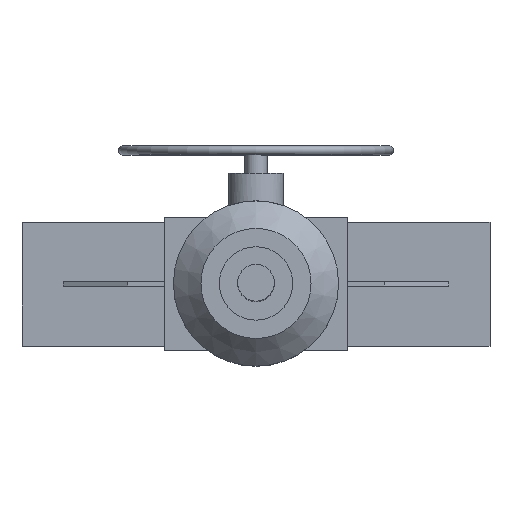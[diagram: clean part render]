
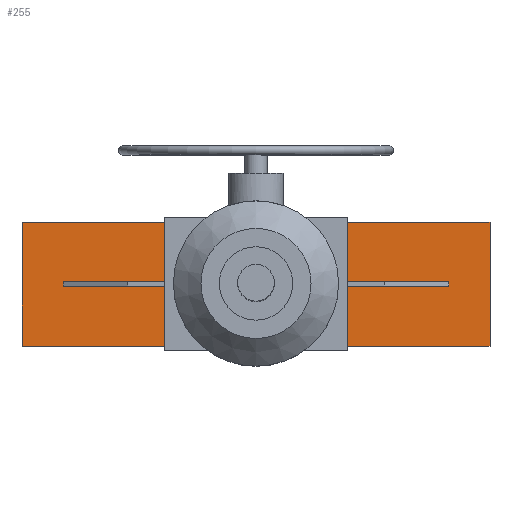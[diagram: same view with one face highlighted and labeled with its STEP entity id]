
A CAD part, top view. The second image highlights one B-rep face of the part: STEP entity #255.
In plain terms, the highlighted planar face has unit normal (0, 0, 1).
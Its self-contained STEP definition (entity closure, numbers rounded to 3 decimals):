
#255=ADVANCED_FACE('',(#1802,#1804),#1806,.T.);
#1802=FACE_BOUND('',#1803,.T.);
#1803=EDGE_LOOP('',(#3093,#3094,#3095,#3096,#3097,#3098,#3099,#3100));
#1804=FACE_BOUND('',#1805,.T.);
#1805=EDGE_LOOP('',(#3101,#3102,#3103,#3104));
#1806=PLANE('',#1807);
#1807=AXIS2_PLACEMENT_3D('',#1808,#1809,#1810);
#1808=CARTESIAN_POINT('',(0.,0.,390.));
#1809=DIRECTION('',(0.,0.,1.));
#1810=DIRECTION('',(1.,0.,0.));
#3093=ORIENTED_EDGE('',*,*,#3824,.F.);
#3094=ORIENTED_EDGE('',*,*,#3822,.T.);
#3095=ORIENTED_EDGE('',*,*,#3834,.T.);
#3096=ORIENTED_EDGE('',*,*,#3813,.T.);
#3097=ORIENTED_EDGE('',*,*,#3830,.F.);
#3098=ORIENTED_EDGE('',*,*,#3817,.T.);
#3099=ORIENTED_EDGE('',*,*,#3835,.T.);
#3100=ORIENTED_EDGE('',*,*,#3818,.T.);
#3101=ORIENTED_EDGE('',*,*,#3836,.F.);
#3102=ORIENTED_EDGE('',*,*,#3837,.F.);
#3103=ORIENTED_EDGE('',*,*,#3838,.F.);
#3104=ORIENTED_EDGE('',*,*,#3839,.F.);
#3813=EDGE_CURVE('',#4236,#4204,#4237,.T.);
#3817=EDGE_CURVE('',#4220,#4242,#4244,.T.);
#3818=EDGE_CURVE('',#4245,#4226,#4246,.T.);
#3822=EDGE_CURVE('',#4210,#4251,#4253,.T.);
#3824=EDGE_CURVE('',#4210,#4226,#4255,.T.);
#3830=EDGE_CURVE('',#4220,#4204,#4265,.T.);
#3834=EDGE_CURVE('',#4251,#4236,#4272,.T.);
#3835=EDGE_CURVE('',#4242,#4245,#4273,.T.);
#3836=EDGE_CURVE('',#4274,#4275,#4276,.T.);
#3837=EDGE_CURVE('',#4277,#4274,#4278,.F.);
#3838=EDGE_CURVE('',#4279,#4277,#4280,.T.);
#3839=EDGE_CURVE('',#4275,#4279,#4281,.T.);
#4204=VERTEX_POINT('',#4928);
#4210=VERTEX_POINT('',#4940);
#4220=VERTEX_POINT('',#4962);
#4226=VERTEX_POINT('',#4974);
#4236=VERTEX_POINT('',#4998);
#4237=LINE('',#4999,#5000);
#4242=VERTEX_POINT('',#5010);
#4244=LINE('',#5014,#5015);
#4245=VERTEX_POINT('',#5017);
#4246=LINE('',#5018,#5019);
#4251=VERTEX_POINT('',#5029);
#4253=LINE('',#5033,#5034);
#4255=LINE('',#5039,#5040);
#4265=LINE('',#5061,#5062);
#4272=LINE('',#5140,#5141);
#4273=LINE('',#5143,#5144);
#4274=VERTEX_POINT('',#5146);
#4275=VERTEX_POINT('',#5147);
#4276=LINE('',#5148,#5149);
#4277=VERTEX_POINT('',#5151);
#4278=LINE('',#5152,#5153);
#4279=VERTEX_POINT('',#5155);
#4280=LINE('',#5156,#5157);
#4281=LINE('',#5159,#5160);
#4928=CARTESIAN_POINT('',(100.,67.5,390.));
#4940=CARTESIAN_POINT('',(100.,-67.5,390.));
#4962=CARTESIAN_POINT('',(-100.,67.5,390.));
#4974=CARTESIAN_POINT('',(-100.,-67.5,390.));
#4998=CARTESIAN_POINT('',(255.,67.5,390.));
#4999=CARTESIAN_POINT('',(255.,67.5,390.));
#5000=VECTOR('',#5001,1.);
#5001=DIRECTION('',(-1.,0.,0.));
#5010=CARTESIAN_POINT('',(-255.,67.5,390.));
#5014=CARTESIAN_POINT('',(-100.,67.5,390.));
#5015=VECTOR('',#5016,1.);
#5016=DIRECTION('',(-1.,0.,0.));
#5017=CARTESIAN_POINT('',(-255.,-67.5,390.));
#5018=CARTESIAN_POINT('',(-255.,-67.5,390.));
#5019=VECTOR('',#5020,1.);
#5020=DIRECTION('',(1.,0.,0.));
#5029=CARTESIAN_POINT('',(255.,-67.5,390.));
#5033=CARTESIAN_POINT('',(100.,-67.5,390.));
#5034=VECTOR('',#5035,1.);
#5035=DIRECTION('',(1.,0.,0.));
#5039=CARTESIAN_POINT('',(100.,-67.5,390.));
#5040=VECTOR('',#5041,1.);
#5041=DIRECTION('',(-1.,0.,0.));
#5061=CARTESIAN_POINT('',(-100.,67.5,390.));
#5062=VECTOR('',#5063,1.);
#5063=DIRECTION('',(1.,0.,0.));
#5140=CARTESIAN_POINT('',(255.,-67.5,390.));
#5141=VECTOR('',#5142,1.);
#5142=DIRECTION('',(0.,1.,0.));
#5143=CARTESIAN_POINT('',(-255.,67.5,390.));
#5144=VECTOR('',#5145,1.);
#5145=DIRECTION('',(0.,-1.,0.));
#5146=CARTESIAN_POINT('',(-210.,2.5,390.));
#5147=CARTESIAN_POINT('',(-210.,-2.5,390.));
#5148=CARTESIAN_POINT('',(-210.,2.5,390.));
#5149=VECTOR('',#5150,1.);
#5150=DIRECTION('',(0.,-1.,0.));
#5151=CARTESIAN_POINT('',(210.,2.5,390.));
#5152=CARTESIAN_POINT('',(-210.,2.5,390.));
#5153=VECTOR('',#5154,1.);
#5154=DIRECTION('',(1.,0.,0.));
#5155=CARTESIAN_POINT('',(210.,-2.5,390.));
#5156=CARTESIAN_POINT('',(210.,-2.5,390.));
#5157=VECTOR('',#5158,1.);
#5158=DIRECTION('',(0.,1.,0.));
#5159=CARTESIAN_POINT('',(-210.,-2.5,390.));
#5160=VECTOR('',#5161,1.);
#5161=DIRECTION('',(1.,0.,0.));
